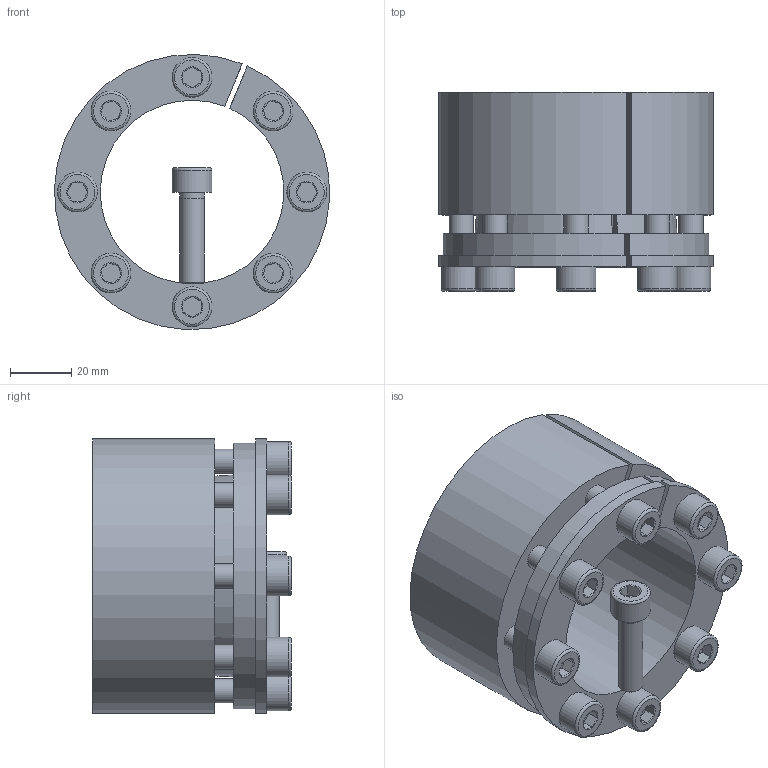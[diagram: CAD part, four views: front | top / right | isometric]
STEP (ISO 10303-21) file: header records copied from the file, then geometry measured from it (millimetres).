
FILE_DESCRIPTION( ( 'Unknown' ), '1' );
FILE_NAME( 'C:/Dokumente und Einstellungen/Sven/Desktop/homepage/cad - homepage/KBS70/KBS 70 - 60 x 90.stp', 'Unknown', ( 'Unknown' ), ( 'Unknown' ), 'XStep 1.0', 'Unknown', ' ' );
FILE_SCHEMA( ( 'automotive_design' ) );
Length unit declared in the file: millimetre
Products named in the file (3): Assem1; KBS 70 - 60 x 90; ISO EN DIN 4762 M8x30
Bounding box: 89.9 x 65 x 89.94 mm (x, y, z)
Volume: 338603.6 mm3; surface area: 111387.8 mm2
Topology: 11 solids, 11 shells, 285 faces, 583 edges, 356 vertices
Faces by surface type: plane 124, cylinder 76, cone 67, torus 18
Full cylindrical faces by diameter (mm): 7 x9, 8 x50, 13 x9
Entity records: 1882 total; most frequent: CARTESIAN_POINT 305, DIRECTION 284, ORIENTED_EDGE 206, AXIS2_PLACEMENT_3D 126, EDGE_LOOP 114, EDGE_CURVE 103, VERTEX_POINT 79, FACE_OUTER_BOUND 77
